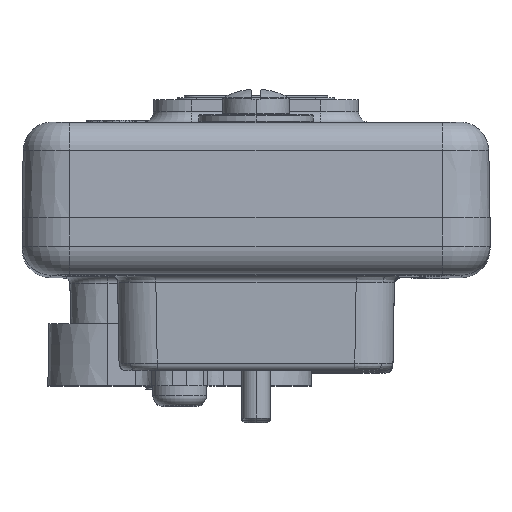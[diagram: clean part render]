
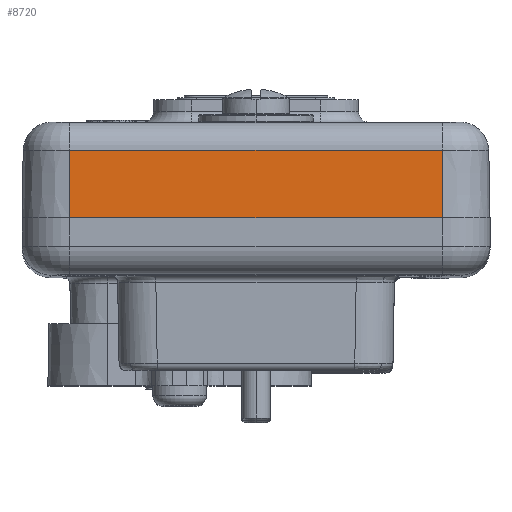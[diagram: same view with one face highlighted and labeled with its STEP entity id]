
A CAD part, top view. The second image highlights one B-rep face of the part: STEP entity #8720.
In plain terms, the highlighted planar face has unit normal (0, 0.018, 1).
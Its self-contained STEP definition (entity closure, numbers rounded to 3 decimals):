
#3052 = CARTESIAN_POINT ( 'NONE',  ( -19.5, 0., 85. ) ) ;
#4111 = EDGE_CURVE ( 'NONE', #21757, #78312, #25339, .T. ) ;
#5322 = VECTOR ( 'NONE', #49235, 1000. ) ;
#8403 = DIRECTION ( 'NONE',  ( 0., -1., 0.017 ) ) ;
#8720 = ADVANCED_FACE ( 'NONE', ( #63880 ), #81634, .T. ) ;
#9858 = CARTESIAN_POINT ( 'NONE',  ( 19.5, 7.052, 84.877 ) ) ;
#17510 = CARTESIAN_POINT ( 'NONE',  ( 19.5, 0., 85. ) ) ;
#18809 = DIRECTION ( 'NONE',  ( 0., -1., 0.017 ) ) ;
#20351 = LINE ( 'NONE', #79923, #5322 ) ;
#21757 = VERTEX_POINT ( 'NONE', #22661 ) ;
#21796 = LINE ( 'NONE', #72337, #62747 ) ;
#22145 = VERTEX_POINT ( 'NONE', #9858 ) ;
#22661 = CARTESIAN_POINT ( 'NONE',  ( -19.5, 7.052, 84.877 ) ) ;
#23014 = VECTOR ( 'NONE', #69918, 1000. ) ;
#25247 = CARTESIAN_POINT ( 'NONE',  ( -19.5, 0., 85. ) ) ;
#25339 = LINE ( 'NONE', #3052, #81234 ) ;
#27163 = EDGE_CURVE ( 'NONE', #78312, #62217, #46976, .T. ) ;
#29586 = AXIS2_PLACEMENT_3D ( 'NONE', #31406, #31134, #18809 ) ;
#31134 = DIRECTION ( 'NONE',  ( 0., 0.017, 1. ) ) ;
#31406 = CARTESIAN_POINT ( 'NONE',  ( -19.5, 0., 85. ) ) ;
#44871 = ORIENTED_EDGE ( 'NONE', *, *, #67370, .F. ) ;
#46976 = LINE ( 'NONE', #25247, #23014 ) ;
#49235 = DIRECTION ( 'NONE',  ( -1., 0., 0. ) ) ;
#53676 = ORIENTED_EDGE ( 'NONE', *, *, #27163, .T. ) ;
#60454 = EDGE_CURVE ( 'NONE', #22145, #21757, #20351, .T. ) ;
#60686 = ORIENTED_EDGE ( 'NONE', *, *, #60454, .T. ) ;
#62217 = VERTEX_POINT ( 'NONE', #17510 ) ;
#62747 = VECTOR ( 'NONE', #78734, 1000. ) ;
#63880 = FACE_OUTER_BOUND ( 'NONE', #71159, .T. ) ;
#67370 = EDGE_CURVE ( 'NONE', #22145, #62217, #21796, .T. ) ;
#67663 = CARTESIAN_POINT ( 'NONE',  ( -19.5, 0., 85. ) ) ;
#68498 = ORIENTED_EDGE ( 'NONE', *, *, #4111, .T. ) ;
#69918 = DIRECTION ( 'NONE',  ( 1., 0., 0. ) ) ;
#71159 = EDGE_LOOP ( 'NONE', ( #44871, #60686, #68498, #53676 ) ) ;
#72337 = CARTESIAN_POINT ( 'NONE',  ( 19.5, 0., 85. ) ) ;
#78312 = VERTEX_POINT ( 'NONE', #67663 ) ;
#78734 = DIRECTION ( 'NONE',  ( 0., -1., 0.017 ) ) ;
#79923 = CARTESIAN_POINT ( 'NONE',  ( -19.5, 7.052, 84.877 ) ) ;
#81234 = VECTOR ( 'NONE', #8403, 1000. ) ;
#81634 = PLANE ( 'NONE',  #29586 ) ;
